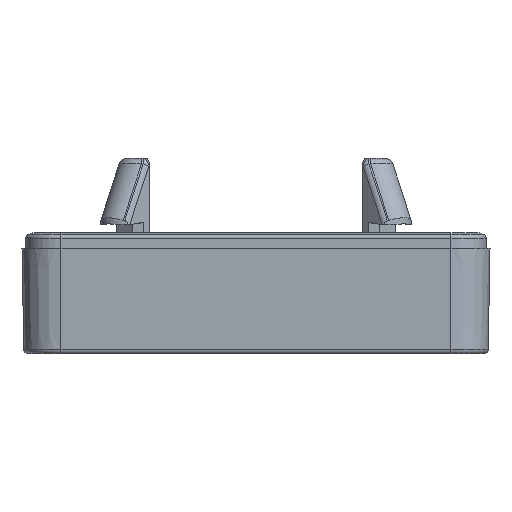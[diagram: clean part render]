
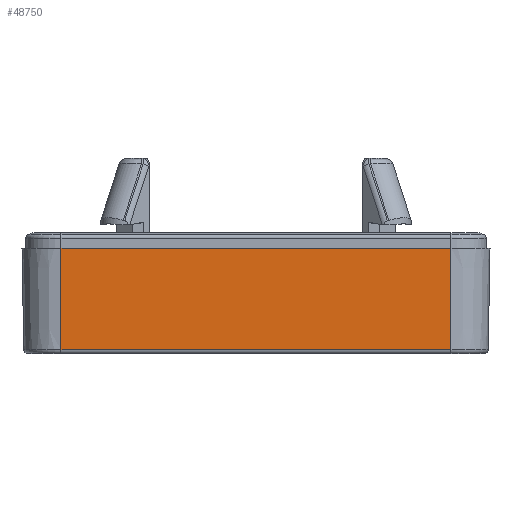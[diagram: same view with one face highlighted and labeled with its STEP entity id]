
A CAD part, left-side view. The second image highlights one B-rep face of the part: STEP entity #48750.
In plain terms, the highlighted planar face has unit normal (-1, 0, -0.018).
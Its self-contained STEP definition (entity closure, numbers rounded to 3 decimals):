
#1105=PLANE('',#52720);
#4700=FACE_OUTER_BOUND('',#7778,.T.);
#7778=EDGE_LOOP('',(#36500,#36501,#36502,#36503));
#11023=LINE('',#79131,#15397);
#11024=LINE('',#79133,#15398);
#11025=LINE('',#79135,#15399);
#11026=LINE('',#79136,#15400);
#15397=VECTOR('',#59895,10.);
#15398=VECTOR('',#59896,10.);
#15399=VECTOR('',#59897,10.);
#15400=VECTOR('',#59898,10.);
#22132=VERTEX_POINT('',#79129);
#22133=VERTEX_POINT('',#79130);
#22134=VERTEX_POINT('',#79132);
#22135=VERTEX_POINT('',#79134);
#27533=EDGE_CURVE('',#22132,#22133,#11023,.T.);
#27534=EDGE_CURVE('',#22134,#22132,#11024,.T.);
#27535=EDGE_CURVE('',#22135,#22134,#11025,.T.);
#27536=EDGE_CURVE('',#22135,#22133,#11026,.T.);
#36500=ORIENTED_EDGE('',*,*,#27533,.F.);
#36501=ORIENTED_EDGE('',*,*,#27534,.F.);
#36502=ORIENTED_EDGE('',*,*,#27535,.F.);
#36503=ORIENTED_EDGE('',*,*,#27536,.T.);
#48750=ADVANCED_FACE('',(#4700),#1105,.F.);
#52720=AXIS2_PLACEMENT_3D('',#79128,#59893,#59894);
#59893=DIRECTION('center_axis',(1.,0.,
0.017));
#59894=DIRECTION('ref_axis',(0.017,0.,-1.));
#59895=DIRECTION('',(0.,1.,0.));
#59896=DIRECTION('',(0.017,0.,-1.));
#59897=DIRECTION('',(0.,-1.,0.));
#59898=DIRECTION('',(0.017,0.,-1.));
#79128=CARTESIAN_POINT('Origin',(-74.,25.,0.));
#79129=CARTESIAN_POINT('',(-73.773,-25.,-13.009));
#79130=CARTESIAN_POINT('',(-73.773,25.,-13.009));
#79131=CARTESIAN_POINT('',(-73.773,19.916,-13.009));
#79132=CARTESIAN_POINT('',(-74.,-25.,0.));
#79133=CARTESIAN_POINT('',(-73.764,-25.,-13.5));
#79134=CARTESIAN_POINT('',(-74.,25.,0.));
#79135=CARTESIAN_POINT('',(-74.,0.,0.));
#79136=CARTESIAN_POINT('',(-73.764,25.,-13.5));
